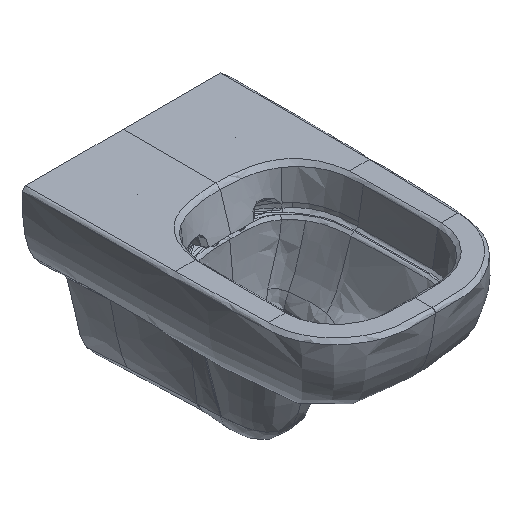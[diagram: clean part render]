
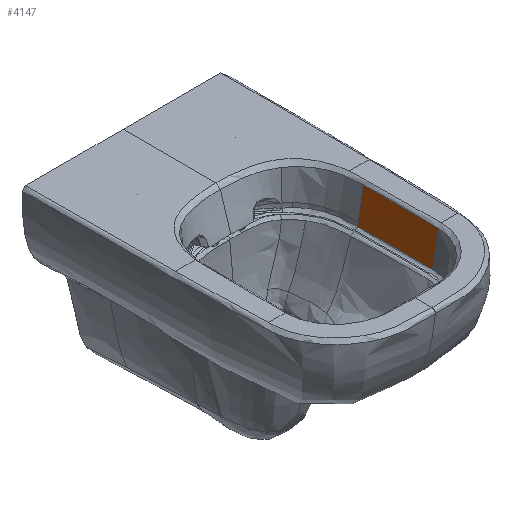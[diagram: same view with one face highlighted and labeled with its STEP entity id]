
A CAD part, isometric view. The second image highlights one B-rep face of the part: STEP entity #4147.
In plain terms, the highlighted free-form (B-spline) face has degree [3, 3] with [4, 4] control points.
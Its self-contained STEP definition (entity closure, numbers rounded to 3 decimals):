
#308=B_SPLINE_CURVE_WITH_KNOTS('',3,(#19350,#19351,#19352,#19353,#19354,
#19355,#19356,#19357,#19358,#19359,#19360,#19361,#19362),.UNSPECIFIED.,
 .F.,.F.,(4,1,1,1,1,1,1,1,1,1,4),(0.,0.001,0.01,
0.014,0.081,0.151,0.434,
0.717,0.859,0.929,1.),.UNSPECIFIED.);
#312=B_SPLINE_CURVE_WITH_KNOTS('',3,(#19443,#19444,#19445,#19446,#19447),
 .UNSPECIFIED.,.F.,.F.,(4,1,4),(0.,0.5,1.),.UNSPECIFIED.);
#679=LINE('',#20802,#738);
#680=LINE('',#20820,#739);
#681=LINE('',#20821,#740);
#738=VECTOR('',#4697,58.216);
#739=VECTOR('',#4698,128.816);
#740=VECTOR('',#4699,51.595);
#815=B_SPLINE_SURFACE_WITH_KNOTS('',3,3,((#20803,#20804,#20805,#20806),
(#20807,#20808,#20809,#20810),(#20811,#20812,#20813,#20814),(#20815,#20816,
#20817,#20818)),.UNSPECIFIED.,.F.,.F.,.F.,(4,4),(4,4),(0.,1.),(0.,1.),
 .UNSPECIFIED.);
#1009=FACE_OUTER_BOUND('',#1282,.T.);
#1282=EDGE_LOOP('',(#3061,#3062,#3063,#3064,#3065));
#1670=VERTEX_POINT('',#15602);
#1704=VERTEX_POINT('',#19224);
#1705=VERTEX_POINT('',#19425);
#1715=VERTEX_POINT('',#20790);
#1716=VERTEX_POINT('',#20819);
#2189=EDGE_CURVE('',#1704,#1670,#308,.T.);
#2193=EDGE_CURVE('',#1670,#1705,#312,.T.);
#2211=EDGE_CURVE('',#1715,#1704,#679,.T.);
#2212=EDGE_CURVE('',#1715,#1716,#680,.T.);
#2213=EDGE_CURVE('',#1716,#1705,#681,.T.);
#3061=ORIENTED_EDGE('',*,*,#2189,.F.);
#3062=ORIENTED_EDGE('',*,*,#2211,.F.);
#3063=ORIENTED_EDGE('',*,*,#2212,.T.);
#3064=ORIENTED_EDGE('',*,*,#2213,.T.);
#3065=ORIENTED_EDGE('',*,*,#2193,.F.);
#4147=ADVANCED_FACE('',(#1009),#815,.T.);
#4697=DIRECTION('',(0.,-0.154,-0.988));
#4698=DIRECTION('',(-1.,0.,0.));
#4699=DIRECTION('',(0.,-0.164,-0.987));
#15602=CARTESIAN_POINT('',(286.179,119.533,-62.295));
#19224=CARTESIAN_POINT('',(414.998,120.084,-62.295));
#19350=CARTESIAN_POINT('Ctrl Pts',(414.998,120.084,-62.295));
#19351=CARTESIAN_POINT('Ctrl Pts',(414.957,120.084,-62.295));
#19352=CARTESIAN_POINT('Ctrl Pts',(414.537,120.083,-62.295));
#19353=CARTESIAN_POINT('Ctrl Pts',(413.927,120.079,-62.295));
#19354=CARTESIAN_POINT('Ctrl Pts',(410.51,120.064,-62.295));
#19355=CARTESIAN_POINT('Ctrl Pts',(404.436,120.038,-62.296));
#19356=CARTESIAN_POINT('Ctrl Pts',(386.403,119.961,-62.296));
#19357=CARTESIAN_POINT('Ctrl Pts',(359.069,119.843,-62.296));
#19358=CARTESIAN_POINT('Ctrl Pts',(328.699,119.713,-62.297));
#19359=CARTESIAN_POINT('Ctrl Pts',(307.439,119.624,-62.295));
#19360=CARTESIAN_POINT('Ctrl Pts',(295.291,119.571,-62.296));
#19361=CARTESIAN_POINT('Ctrl Pts',(289.216,119.547,-62.294));
#19362=CARTESIAN_POINT('Ctrl Pts',(286.179,119.533,-62.295));
#19425=CARTESIAN_POINT('',(286.179,120.632,-55.672));
#19443=CARTESIAN_POINT('Ctrl Pts',(286.179,119.533,-62.295));
#19444=CARTESIAN_POINT('Ctrl Pts',(286.179,119.716,-61.191));
#19445=CARTESIAN_POINT('Ctrl Pts',(286.179,120.083,-58.984));
#19446=CARTESIAN_POINT('Ctrl Pts',(286.179,120.449,-56.776));
#19447=CARTESIAN_POINT('Ctrl Pts',(286.179,120.632,-55.672));
#20790=CARTESIAN_POINT('',(414.996,129.045,-4.773));
#20802=CARTESIAN_POINT('',(414.996,129.045,-4.773));
#20803=CARTESIAN_POINT('Ctrl Pts',(414.996,129.045,-4.773));
#20804=CARTESIAN_POINT('Ctrl Pts',(414.996,125.796,-25.625));
#20805=CARTESIAN_POINT('Ctrl Pts',(414.997,122.548,-46.478));
#20806=CARTESIAN_POINT('Ctrl Pts',(414.998,119.299,-67.33));
#20807=CARTESIAN_POINT('Ctrl Pts',(370.856,129.057,-4.773));
#20808=CARTESIAN_POINT('Ctrl Pts',(370.857,125.725,-25.688));
#20809=CARTESIAN_POINT('Ctrl Pts',(370.858,122.393,-46.604));
#20810=CARTESIAN_POINT('Ctrl Pts',(370.858,119.062,-67.52));
#20811=CARTESIAN_POINT('Ctrl Pts',(326.717,129.069,-4.773));
#20812=CARTESIAN_POINT('Ctrl Pts',(326.718,125.654,-25.751));
#20813=CARTESIAN_POINT('Ctrl Pts',(326.718,122.239,-46.73));
#20814=CARTESIAN_POINT('Ctrl Pts',(326.719,118.824,-67.709));
#20815=CARTESIAN_POINT('Ctrl Pts',(282.578,129.08,-4.773));
#20816=CARTESIAN_POINT('Ctrl Pts',(282.578,125.582,-25.814));
#20817=CARTESIAN_POINT('Ctrl Pts',(282.579,122.084,-46.856));
#20818=CARTESIAN_POINT('Ctrl Pts',(282.58,118.587,-67.898));
#20819=CARTESIAN_POINT('',(286.179,129.08,-4.773));
#20820=CARTESIAN_POINT('',(414.996,129.045,-4.773));
#20821=CARTESIAN_POINT('',(286.179,129.08,-4.773));
